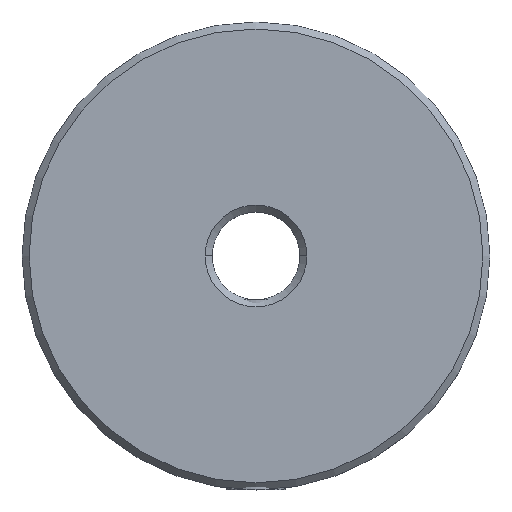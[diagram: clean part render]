
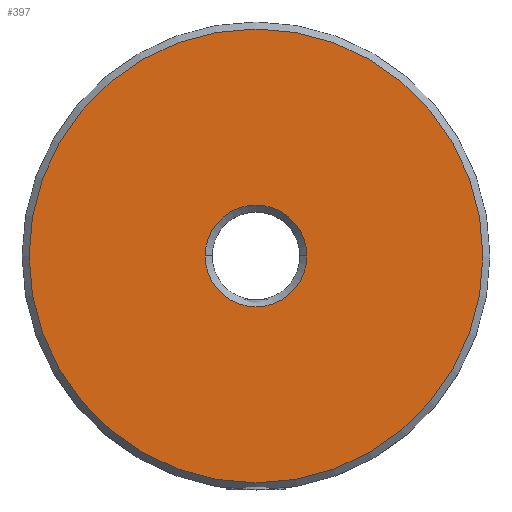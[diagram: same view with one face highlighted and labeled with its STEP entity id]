
A CAD part, top view. The second image highlights one B-rep face of the part: STEP entity #397.
In plain terms, the highlighted planar face has unit normal (0, 0, 1).
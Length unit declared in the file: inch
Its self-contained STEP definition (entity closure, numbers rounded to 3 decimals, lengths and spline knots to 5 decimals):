
#114=CARTESIAN_POINT('',(0.,0.,0.));
#115=DIRECTION('',(0.,0.,1.));
#116=DIRECTION('',(0.,-1.,0.));
#117=AXIS2_PLACEMENT_3D('',#114,#115,#116);
#119=CARTESIAN_POINT('',(0.,0.,0.));
#120=DIRECTION('',(0.,0.,1.));
#121=DIRECTION('',(0.,1.,0.));
#122=AXIS2_PLACEMENT_3D('',#119,#120,#121);
#124=CARTESIAN_POINT('',(0.,0.,0.));
#125=DIRECTION('',(0.,0.,-1.));
#126=DIRECTION('',(1.,0.,0.));
#127=AXIS2_PLACEMENT_3D('',#124,#125,#126);
#129=CARTESIAN_POINT('',(0.,0.,0.));
#130=DIRECTION('',(0.,0.,-1.));
#131=DIRECTION('',(-1.,0.,0.));
#132=AXIS2_PLACEMENT_3D('',#129,#130,#131);
#246=CARTESIAN_POINT('',(0.,-0.97,0.));
#247=CARTESIAN_POINT('',(0.,0.97,0.));
#248=VERTEX_POINT('',#246);
#249=VERTEX_POINT('',#247);
#258=CARTESIAN_POINT('',(0.2175,0.,0.));
#259=CARTESIAN_POINT('',(-0.2175,0.,0.));
#260=VERTEX_POINT('',#258);
#261=VERTEX_POINT('',#259);
#381=CARTESIAN_POINT('',(0.,0.,0.));
#382=DIRECTION('',(0.,0.,-1.));
#383=DIRECTION('',(-1.,0.,0.));
#384=AXIS2_PLACEMENT_3D('',#381,#382,#383);
#385=PLANE('',#384);
#386=ORIENTED_EDGE('',*,*,#371,.F.);
#388=ORIENTED_EDGE('',*,*,#387,.F.);
#389=EDGE_LOOP('',(#386,#388));
#390=FACE_OUTER_BOUND('',#389,.F.);
#392=ORIENTED_EDGE('',*,*,#391,.F.);
#394=ORIENTED_EDGE('',*,*,#393,.F.);
#395=EDGE_LOOP('',(#392,#394));
#396=FACE_BOUND('',#395,.F.);
#397=ADVANCED_FACE('',(#390,#396),#385,.F.);
#118=CIRCLE('',#117,0.97);
#123=CIRCLE('',#122,0.97);
#128=CIRCLE('',#127,0.2175);
#133=CIRCLE('',#132,0.2175);
#371=EDGE_CURVE('',#248,#249,#118,.T.);
#387=EDGE_CURVE('',#249,#248,#123,.T.);
#391=EDGE_CURVE('',#260,#261,#128,.T.);
#393=EDGE_CURVE('',#261,#260,#133,.T.);
